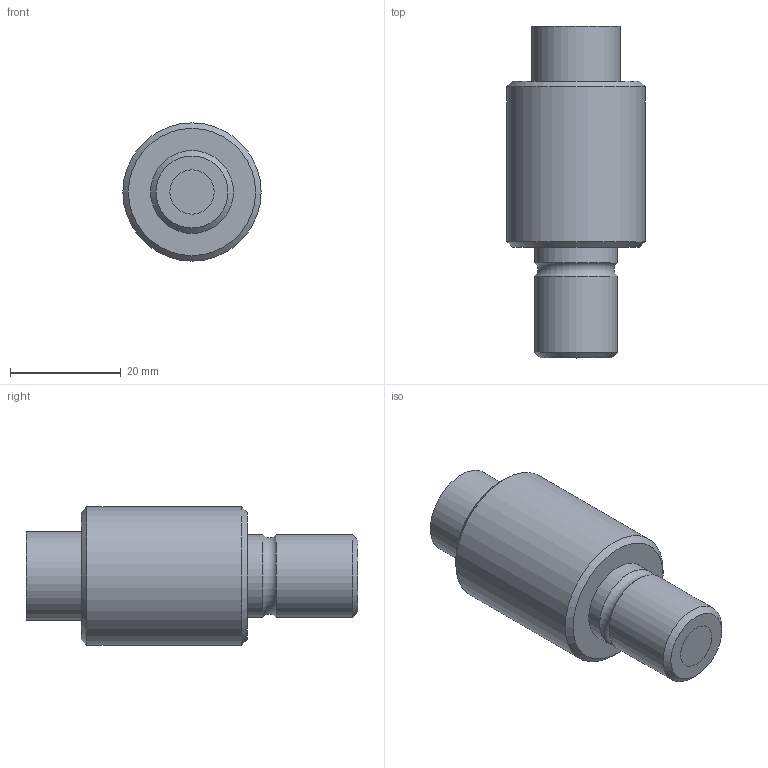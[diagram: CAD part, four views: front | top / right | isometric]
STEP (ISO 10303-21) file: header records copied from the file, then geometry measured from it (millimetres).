
FILE_DESCRIPTION(/* description */ (''),/* implementation_level */ '2;1');
FILE_NAME(/* name */ '//sv004/特品事業部/特品共通フォルダ/☆社外用データテスト/01_製品関連/0121_ライトガイド関連/3D図面/LGC1-8L 受光部.step',/* time_stamp */ '2022-11-01T10:31:14+09:00',/* author */ (''),/* organization */ (''),/* preprocessor_version */ 'ST-DEVELOPER v19',/* originating_system */ 'Autodesk Translation Framework v11.7.0.108',/* authorisation */ '');
FILE_SCHEMA (('AUTOMOTIVE_DESIGN { 1 0 10303 214 3 1 1 }'));
Length unit declared in the file: millimetre
Products named in the file (1): LGC1-8L 受光部
Bounding box: 25 x 60 x 25 mm (x, y, z)
Volume: 20126.3 mm3; surface area: 7988.2 mm2
Topology: 3 solids, 3 shells, 18 faces, 28 edges, 17 vertices
Faces by surface type: plane 7, cylinder 7, cone 3, torus 1
Full cylindrical faces by diameter (mm): 8 x3, 15 x2, 16 x1, 25 x1
Entity records: 449 total; most frequent: DIRECTION 84, CARTESIAN_POINT 64, ORIENTED_EDGE 56, AXIS2_PLACEMENT_3D 37, EDGE_CURVE 28, EDGE_LOOP 23, FACE_OUTER_BOUND 18, CIRCLE 18
